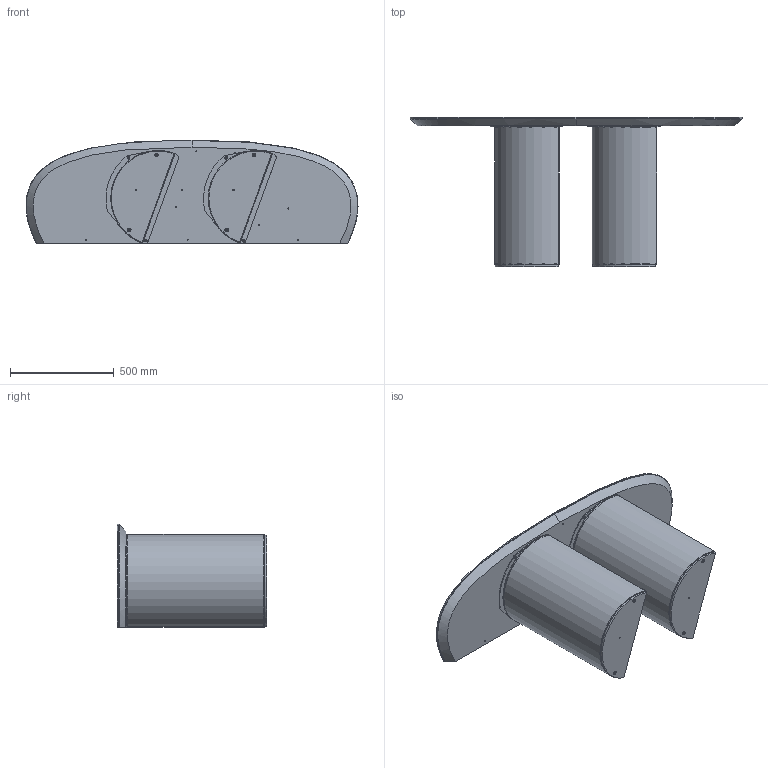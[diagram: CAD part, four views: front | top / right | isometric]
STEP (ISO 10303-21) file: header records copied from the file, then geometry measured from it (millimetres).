
FILE_DESCRIPTION (( 'STEP AP203' ), '1' );
FILE_NAME ('PL60C_Plai Console_160x50x72h_Ceramic.STEP', '2024-08-06T09:56:29', ( '' ), ( '' ), 'SwSTEP 2.0', 'SolidWorks 2022', '' );
FILE_SCHEMA (( 'CONFIG_CONTROL_DESIGN' ));
Length unit declared in the file: millimetre
Products named in the file (9): PL60C_Plai Console_160x50x72h_Ceramic; M8xXXmm_hex_M8X20mm; DOR000V01PST-00-DORA PIASTRA TELAIO; KXXXX-00-piani CERAMICA Sasso per console_160X50; Assieme Basamento PLAI_Basamento per consolle; PLA000000ZOC-01-PLAI ZOCCOLO DELLA BASE; Kxx-00-Piano in ceramica_160x50; TRU000XXX-01-Sottopiano per ceramica_160x50<A macchina>; PLA000000BAS-00-PLAI BASE GREZZA
Assembly tree (10 placements, depth 3):
  PL60C_Plai Console_160x50x72h_Ceramic
    KXXXX-00-piani CERAMICA Sasso per console_160X50
      Kxx-00-Piano in ceramica_160x50
      TRU000XXX-01-Sottopiano per ceramica_160x50<A macchina>
    Assieme Basamento PLAI_Basamento per consolle  x2
      PLA000000BAS-00-PLAI BASE GREZZA
      DOR000V01PST-00-DORA PIASTRA TELAIO
      PLA000000ZOC-01-PLAI ZOCCOLO DELLA BASE
      M8xXXmm_hex_M8X20mm
Bounding box: 1599.92 x 719 x 500 mm (x, y, z)
Volume: 34393365.5 mm3; surface area: 7255618.7 mm2
Topology: 18 solids, 18 shells, 398 faces, 913 edges, 527 vertices
Faces by surface type: plane 146, cylinder 146, cone 92, torus 8, bspline 6
Entity records: 8488 total; most frequent: CARTESIAN_POINT 2615, DIRECTION 1105, ORIENTED_EDGE 928, EDGE_CURVE 464, AXIS2_PLACEMENT_3D 434, VERTEX_POINT 290, EDGE_LOOP 260, LINE 237
